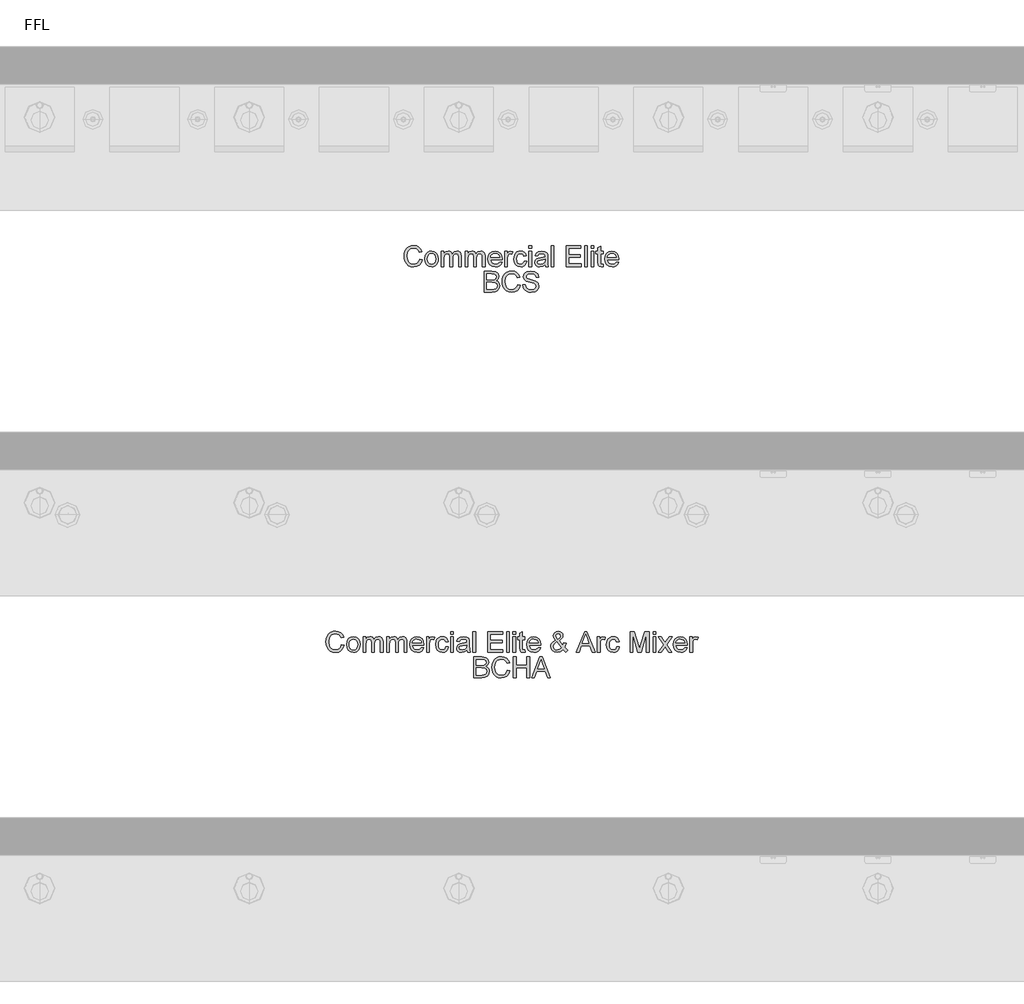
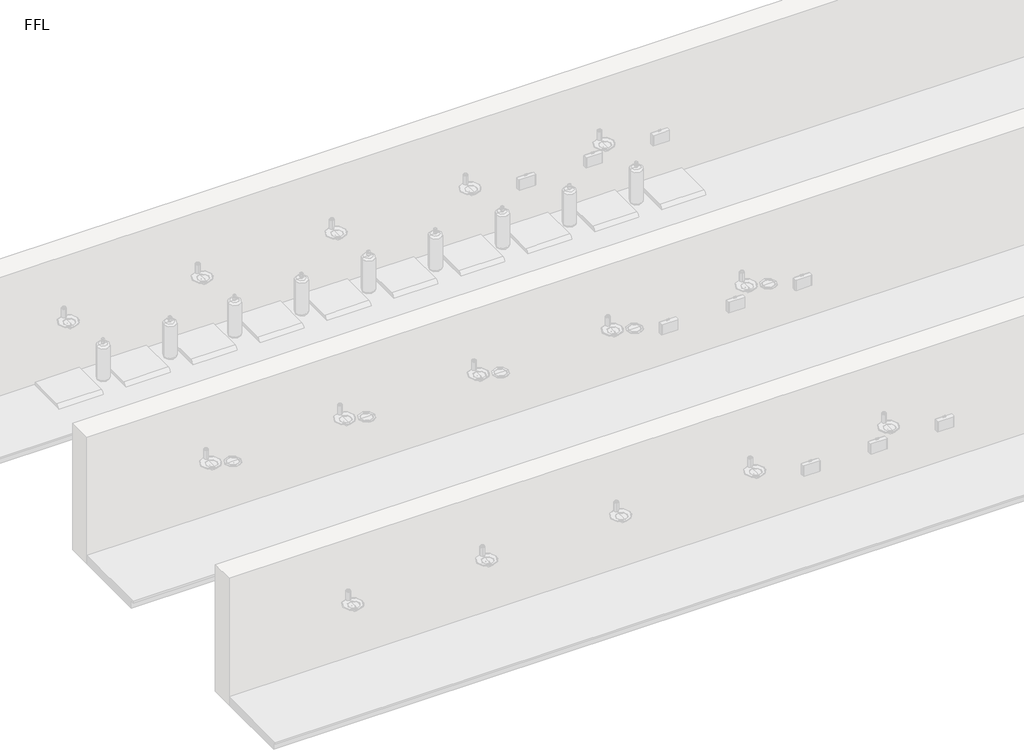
# One storey, part 9 of 13: 2 proxies.
"""IFC4 building model written with IfcOpenShell, lengths in millimetres."""

from ifc_helpers import new_model, si_unit, origin, origin_with_axes, place, context, project, spatial, polyline, outline, extrude, element, save

model = new_model("IFC4")

# Units and contexts
model_context = context("Model", 3, world=origin())
ifc_project = project(units=[si_unit("LENGTHUNIT", "METRE", prefix="MILLI")], contexts=[model_context])

# Site, building, storey
site = spatial("IfcSite", under=ifc_project)
building = spatial("IfcBuilding", under=site)
storey = spatial("IfcBuildingStorey", under=building, Name="FFL", Elevation=0.0)

# Proxies
placement = place(None, origin())
element("IfcBuildingElementProxy", 1, Name="150mm Arial", ObjectType="150mm Arial", at=placement, inside=storey, context=model_context, shape_type="SweptSolid", body=[
    extrude(outline(polyline([(-3000.1199083, 3836.3018309), (-2981.6583698, 3831.5422155), (-2990.1769996, 3810.0292948), (-3003.545389, 3794.3126482), (-3021.1054852, 3784.698766), (-3042.1992352, 3781.4941386), (-3063.6129972, 3783.9190184), (-3080.6187063, 3791.1936578), (-3093.6535621, 3803.065653), (-3103.154764, 3819.2826001), (-3108.9555453, 3838.3481049), (-3110.889139, 3858.7657732), (-3108.7031414, 3880.3012299), (-3102.1451486, 3898.8979847), (-3091.5577087, 3913.9655929), (-3077.2833698, 3924.9136097), (-3060.3542833, 3931.5797756), (-3041.8026006, 3933.8018309), (-3021.5607135, 3930.9262299), (-3004.8254371, 3922.299427), (-2992.1196078, 3908.4532732), (-2983.9660621, 3889.9196193), (-3002.4276006, 3885.5205809), (-3008.8278409, 3898.9836217), (-3017.5718313, 3908.2188982), (-3028.7677448, 3913.5599439), (-3042.5237544, 3915.3402924), (-3058.3801246, 3913.3661338), (-3071.4059659, 3907.4436578), (-3081.2902809, 3898.1948597), (-3087.7220717, 3886.2417347), (-3092.4276006, 3858.8018309), (-3086.8566871, 3826.9989463), (-3079.7352929, 3815.1224439), (-3069.5129371, 3806.6804367), (-3057.2578289, 3801.6368669), (-3044.0381775, 3799.955677), (-3028.6280212, 3802.2453405), (-3015.7869756, 3809.1143309), (-3006.0919635, 3820.4905328), (-3000.1199083, 3836.3018309)])), origin_with_axes(), (0.0, 0.0, 1.0), 5.0),
    extrude(outline(polyline([(-2963.1968313, 3838.0326001), (-2959.2034419, 3864.1834415), (-2947.2232736, 3882.5638501), (-2932.4215909, 3891.5692588), (-2914.6992352, 3894.5710617), (-2895.3047039, 3890.9157131), (-2879.8134179, 3879.9496674), (-2869.6586703, 3862.5383092), (-2866.2737544, 3839.5470232), (-2867.7701486, 3820.8961818), (-2872.2593313, 3806.6984655), (-2879.6105934, 3796.0659535), (-2889.6932256, 3788.1107251), (-2901.6688866, 3783.1482852), (-2914.6992352, 3781.4941386), (-2934.3281414, 3785.1359655), (-2949.8013986, 3796.0614463), (-2959.8479732, 3813.8378886), (-2963.1968313, 3838.0326001)]), holes=[polyline([(-2944.7352929, 3838.0686578), (-2942.5988746, 3821.3604246), (-2936.1896198, 3809.456879), (-2926.5441871, 3802.3309775), (-2914.6992352, 3799.955677), (-2902.9083698, 3802.3444992), (-2893.2809659, 3809.5109655), (-2886.8717111, 3821.5722636), (-2884.7352929, 3838.6455809), (-2886.8852328, 3854.8670352), (-2893.3350525, 3866.6083213), (-2902.975978, 3873.7342227), (-2914.6992352, 3876.1095232), (-2926.5441871, 3873.7432371), (-2936.1896198, 3866.644379), (-2942.5988746, 3854.7678766), (-2944.7352929, 3838.0686578)])]), origin_with_axes(), (0.0, 0.0, 1.0), 5.0),
    extrude(outline(polyline([(-2845.5045236, 3783.8018309), (-2845.5045236, 3892.2633693), (-2827.0429852, 3892.2633693), (-2827.0429852, 3874.4148117), (-2814.3506775, 3889.0362059), (-2796.2857736, 3894.5710617), (-2786.0183458, 3893.1603044), (-2777.7881775, 3888.9280328), (-2767.6199083, 3873.1167347), (-2753.2148602, 3889.2074799), (-2735.0237544, 3894.5710617), (-2721.1460501, 3892.3399919), (-2710.8831294, 3885.6467828), (-2704.5414828, 3874.3111458), (-2702.4276006, 3858.1527924), (-2702.4276006, 3783.8018309), (-2720.889139, 3783.8018309), (-2720.889139, 3850.2201001), (-2722.6018794, 3865.6347636), (-2728.8038025, 3873.2249078), (-2739.3506775, 3876.1095232), (-2749.3521799, 3874.2615665), (-2757.5057256, 3868.7176963), (-2762.927901, 3859.0993068), (-2764.7352929, 3845.0277924), (-2764.7352929, 3783.8018309), (-2783.1968313, 3783.8018309), (-2783.1968313, 3852.2753886), (-2787.4696679, 3870.160004), (-2793.1081895, 3874.6221434), (-2801.4780813, 3876.1095232), (-2815.1439467, 3872.143177), (-2824.2304852, 3860.5326001), (-2827.0429852, 3838.5013501), (-2827.0429852, 3783.8018309), (-2845.5045236, 3783.8018309)])), origin_with_axes(), (0.0, 0.0, 1.0), 5.0),
    extrude(outline(polyline([(-2674.7352929, 3783.8018309), (-2674.7352929, 3892.2633693), (-2656.2737544, 3892.2633693), (-2656.2737544, 3874.4148117), (-2643.5814467, 3889.0362059), (-2625.5165429, 3894.5710617), (-2615.249115, 3893.1603044), (-2607.0189467, 3888.9280328), (-2596.8506775, 3873.1167347), (-2582.4456294, 3889.2074799), (-2564.2545236, 3894.5710617), (-2550.3768193, 3892.3399919), (-2540.1138986, 3885.6467828), (-2533.772252, 3874.3111458), (-2531.6583698, 3858.1527924), (-2531.6583698, 3783.8018309), (-2550.1199083, 3783.8018309), (-2550.1199083, 3850.2201001), (-2551.8326486, 3865.6347636), (-2558.0345717, 3873.2249078), (-2568.5814467, 3876.1095232), (-2578.5829491, 3874.2615665), (-2586.7364948, 3868.7176963), (-2592.1586703, 3859.0993068), (-2593.9660621, 3845.0277924), (-2593.9660621, 3783.8018309), (-2612.4276006, 3783.8018309), (-2612.4276006, 3852.2753886), (-2616.7004371, 3870.160004), (-2622.3389587, 3874.6221434), (-2630.7088506, 3876.1095232), (-2644.3747159, 3872.143177), (-2653.4612544, 3860.5326001), (-2656.2737544, 3838.5013501), (-2656.2737544, 3783.8018309), (-2674.7352929, 3783.8018309)])), origin_with_axes(), (0.0, 0.0, 1.0), 5.0),
    extrude(outline(polyline([(-2428.0285621, 3816.1095232), (-2409.9276006, 3813.8018309), (-2416.4495357, 3800.1630088), (-2426.8566871, 3789.9676963), (-2440.9146799, 3783.612528), (-2458.389139, 3781.4941386), (-2480.0507977, 3785.1494871), (-2496.7184659, 3796.1155328), (-2507.3464708, 3813.6801362), (-2510.889139, 3837.1311578), (-2507.3104131, 3861.3709415), (-2496.5742352, 3879.4989463), (-2480.1319275, 3890.8030328), (-2459.4348121, 3894.5710617), (-2439.382228, 3890.8120472), (-2423.3590909, 3879.535004), (-2412.8527809, 3861.4430568), (-2409.3506775, 3837.2393309), (-2409.4588506, 3832.2633693), (-2492.4276006, 3832.2633693), (-2489.2319876, 3818.4442588), (-2481.8086102, 3808.285004), (-2471.0949684, 3802.0380088), (-2458.0285621, 3799.955677), (-2439.9276006, 3803.8138501), (-2428.0285621, 3816.1095232)]), holes=[polyline([(-2492.4276006, 3850.7249078), (-2427.8122159, 3850.7249078), (-2430.3092111, 3860.4785136), (-2435.2040429, 3867.455677), (-2445.967264, 3873.9460617), (-2459.5069275, 3876.1095232), (-2471.9513385, 3874.3832612), (-2482.2413025, 3869.2044751), (-2489.3942472, 3861.1320592), (-2492.4276006, 3850.7249078)])]), origin_with_axes(), (0.0, 0.0, 1.0), 5.0),
    extrude(outline(polyline([(-2390.889139, 3783.8018309), (-2390.889139, 3892.2633693), (-2374.7352929, 3892.2633693), (-2374.7352929, 3876.2176963), (-2363.2689467, 3891.0013501), (-2351.7304852, 3894.5710617), (-2333.1968313, 3888.8739463), (-2339.3626967, 3872.3234655), (-2352.3434659, 3876.1095232), (-2362.7821679, 3872.4676963), (-2369.4348121, 3862.3715424), (-2372.4276006, 3840.8090424), (-2372.4276006, 3783.8018309), (-2390.889139, 3783.8018309)])), origin_with_axes(), (0.0, 0.0, 1.0), 5.0),
    extrude(outline(polyline([(-2252.4276006, 3823.0326001), (-2233.9660621, 3820.7249078), (-2239.1132977, 3804.3051362), (-2248.7857736, 3791.8967828), (-2262.0730333, 3784.0947996), (-2278.0646198, 3781.4941386), (-2297.7025405, 3785.1224439), (-2313.0586102, 3796.0073597), (-2322.9699684, 3813.6711217), (-2326.2737544, 3837.6359655), (-2320.6307256, 3868.3030328), (-2313.5093313, 3879.8009294), (-2303.4312063, 3888.0085617), (-2291.3744155, 3892.9304367), (-2278.3170236, 3894.5710617), (-2262.7175645, 3892.3174559), (-2250.2461102, 3885.5566386), (-2241.2992953, 3874.6491867), (-2236.2737544, 3859.955677), (-2254.7352929, 3857.6479847), (-2263.2989948, 3871.4761097), (-2278.1727929, 3876.1095232), (-2290.1033818, 3873.8288742), (-2299.5730333, 3866.986927), (-2305.7524203, 3855.2140905), (-2307.8122159, 3838.1407732), (-2305.7974924, 3820.8375881), (-2299.7533217, 3809.0241867), (-2290.4549443, 3802.2228044), (-2278.6776006, 3799.955677), (-2269.1178049, 3801.3709415), (-2261.279764, 3805.6167347), (-2255.5781414, 3812.8012299), (-2252.4276006, 3823.0326001)])), origin_with_axes(), (0.0, 0.0, 1.0), 5.0),
    extrude(outline(polyline([(-2217.8122159, 3913.0326001), (-2217.8122159, 3931.4941386), (-2199.3506775, 3931.4941386), (-2199.3506775, 3913.0326001), (-2217.8122159, 3913.0326001)])), origin_with_axes(), (0.0, 0.0, 1.0), 5.0),
    extrude(outline(polyline([(-2217.8122159, 3783.8018309), (-2217.8122159, 3892.2633693), (-2199.3506775, 3892.2633693), (-2199.3506775, 3783.8018309), (-2217.8122159, 3783.8018309)])), origin_with_axes(), (0.0, 0.0, 1.0), 5.0),
    extrude(outline(polyline([(-2102.4276006, 3797.6479847), (-2120.3302448, 3785.1359655), (-2140.107889, 3781.4941386), (-2155.5360741, 3783.6846434), (-2166.9167833, 3790.2561578), (-2173.9345116, 3800.2351242), (-2176.2737544, 3812.6479847), (-2172.7401006, 3827.2513501), (-2163.4552448, 3837.8523117), (-2150.5285621, 3843.910004), (-2134.5550044, 3846.6864463), (-2102.5357736, 3853.0326001), (-2102.4276006, 3857.143177), (-2103.6986342, 3865.3823597), (-2107.5117352, 3870.7729847), (-2116.0393794, 3874.7753886), (-2127.920389, 3876.1095232), (-2146.5982736, 3872.5578405), (-2155.5045236, 3859.955677), (-2173.9660621, 3862.2633693), (-2165.9792833, 3880.2922155), (-2149.8975525, 3890.8571193), (-2125.5405813, 3894.5710617), (-2103.1667833, 3891.2898117), (-2090.5285621, 3883.050629), (-2084.8675044, 3870.5205809), (-2083.9660621, 3854.3667347), (-2083.9660621, 3831.3979847), (-2083.0285621, 3799.3246674), (-2079.3506775, 3783.8018309), (-2097.8122159, 3783.8018309), (-2102.4276006, 3797.6479847)]), holes=[polyline([(-2102.4276006, 3834.5710617), (-2132.2112544, 3828.910004), (-2148.0946679, 3825.9172155), (-2155.2881775, 3821.049427), (-2157.8122159, 3813.9460617), (-2152.3134179, 3803.9580809), (-2136.1776006, 3799.955677), (-2117.4997159, 3804.3727443), (-2105.4564467, 3815.0638501), (-2102.5357736, 3829.3426963), (-2102.4276006, 3834.5710617)])]), origin_with_axes(), (0.0, 0.0, 1.0), 5.0),
    extrude(outline(polyline([(-2058.5814467, 3783.8018309), (-2058.5814467, 3931.4941386), (-2040.1199083, 3931.4941386), (-2040.1199083, 3783.8018309), (-2058.5814467, 3783.8018309)])), origin_with_axes(), (0.0, 0.0, 1.0), 5.0),
    extrude(outline(polyline([(-1952.4276006, 3783.8018309), (-1952.4276006, 3931.4941386), (-1846.2737544, 3931.4941386), (-1846.2737544, 3913.0326001), (-1933.9660621, 3913.0326001), (-1933.9660621, 3869.1864463), (-1850.889139, 3869.1864463), (-1850.889139, 3850.7249078), (-1933.9660621, 3850.7249078), (-1933.9660621, 3802.2633693), (-1843.9660621, 3802.2633693), (-1843.9660621, 3783.8018309), (-1952.4276006, 3783.8018309)])), origin_with_axes(), (0.0, 0.0, 1.0), 5.0),
    extrude(outline(polyline([(-1818.5814467, 3783.8018309), (-1818.5814467, 3931.4941386), (-1800.1199083, 3931.4941386), (-1800.1199083, 3783.8018309), (-1818.5814467, 3783.8018309)])), origin_with_axes(), (0.0, 0.0, 1.0), 5.0),
    extrude(outline(polyline([(-1772.4276006, 3783.8018309), (-1772.4276006, 3892.2633693), (-1753.9660621, 3892.2633693), (-1753.9660621, 3783.8018309), (-1772.4276006, 3783.8018309)])), origin_with_axes(), (0.0, 0.0, 1.0), 5.0),
    extrude(outline(polyline([(-1772.4276006, 3913.0326001), (-1772.4276006, 3931.4941386), (-1753.9660621, 3931.4941386), (-1753.9660621, 3913.0326001), (-1772.4276006, 3913.0326001)])), origin_with_axes(), (0.0, 0.0, 1.0), 5.0),
    extrude(outline(polyline([(-1687.0429852, 3799.1984655), (-1684.7352929, 3783.2609655), (-1698.545389, 3781.4941386), (-1714.014139, 3784.5590424), (-1721.7304852, 3792.5999078), (-1723.9660621, 3813.549427), (-1723.9660621, 3873.8018309), (-1737.8122159, 3873.8018309), (-1737.8122159, 3892.2633693), (-1723.9660621, 3892.2633693), (-1723.9660621, 3918.6215424), (-1705.5045236, 3929.4749078), (-1705.5045236, 3892.2633693), (-1687.0429852, 3892.2633693), (-1687.0429852, 3873.8018309), (-1705.5045236, 3873.8018309), (-1705.5045236, 3814.0902924), (-1704.5309659, 3804.5710617), (-1701.3759179, 3801.1996674), (-1695.0838506, 3799.955677), (-1687.0429852, 3799.1984655)])), origin_with_axes(), (0.0, 0.0, 1.0), 5.0),
    extrude(outline(polyline([(-1592.6439467, 3816.1095232), (-1574.5429852, 3813.8018309), (-1581.0649203, 3800.1630088), (-1591.4720717, 3789.9676963), (-1605.5300645, 3783.612528), (-1623.0045236, 3781.4941386), (-1644.6661823, 3785.1494871), (-1661.3338506, 3796.1155328), (-1671.9618554, 3813.6801362), (-1675.5045236, 3837.1311578), (-1671.9257977, 3861.3709415), (-1661.1896198, 3879.4989463), (-1644.7473121, 3890.8030328), (-1624.0501967, 3894.5710617), (-1603.9976126, 3890.8120472), (-1587.9744756, 3879.535004), (-1577.4681655, 3861.4430568), (-1573.9660621, 3837.2393309), (-1574.0742352, 3832.2633693), (-1657.0429852, 3832.2633693), (-1653.8473722, 3818.4442588), (-1646.4239948, 3808.285004), (-1635.710353, 3802.0380088), (-1622.6439467, 3799.955677), (-1604.5429852, 3803.8138501), (-1592.6439467, 3816.1095232)]), holes=[polyline([(-1657.0429852, 3850.7249078), (-1592.4276006, 3850.7249078), (-1594.9245958, 3860.4785136), (-1599.8194275, 3867.455677), (-1610.5826486, 3873.9460617), (-1624.1223121, 3876.1095232), (-1636.5667232, 3874.3832612), (-1646.8566871, 3869.2044751), (-1654.0096318, 3861.1320592), (-1657.0429852, 3850.7249078)])]), origin_with_axes(), (0.0, 0.0, 1.0), 5.0),
    extrude(outline(polyline([(-2538.5814467, 3601.4941386), (-2538.5814467, 3749.1864463), (-2482.2232736, 3749.1864463), (-2454.6211102, 3744.8414943), (-2445.3452688, 3739.3291746), (-2438.3230333, 3731.4821193), (-2432.4276006, 3712.5878886), (-2437.3855333, 3695.3342828), (-2452.3675044, 3682.2633693), (-2441.9062664, 3676.800629), (-2434.1763986, 3668.4893309), (-2429.4032616, 3657.8793549), (-2427.8122159, 3645.5205809), (-2432.1571679, 3625.6708213), (-2442.920389, 3611.5362059), (-2458.9840909, 3604.0362059), (-2482.6559659, 3601.4941386), (-2538.5814467, 3601.4941386)]), holes=[polyline([(-2520.1199083, 3619.955677), (-2482.2593313, 3619.955677), (-2468.5574083, 3620.6768309), (-2456.9648602, 3624.6972636), (-2449.2845717, 3632.9003886), (-2446.2737544, 3645.3402924), (-2449.8074083, 3659.691254), (-2461.2557256, 3668.2549559), (-2484.0622159, 3670.7249078), (-2520.1199083, 3670.7249078), (-2520.1199083, 3619.955677)]), polyline([(-2520.1199083, 3689.1864463), (-2486.4059659, 3689.1864463), (-2466.7184659, 3690.7729847), (-2454.873514, 3697.6059174), (-2450.889139, 3709.6311578), (-2454.6030813, 3721.674427), (-2465.2401006, 3728.7958213), (-2488.9660621, 3730.7249078), (-2520.1199083, 3730.7249078), (-2520.1199083, 3689.1864463)])]), origin_with_axes(), (0.0, 0.0, 1.0), 5.0),
    extrude(outline(polyline([(-2298.5814467, 3653.9941386), (-2280.1199083, 3649.2345232), (-2288.6385381, 3627.7216025), (-2302.0069275, 3612.0049559), (-2319.5670236, 3602.3910737), (-2340.6607736, 3599.1864463), (-2362.0745357, 3601.6113261), (-2379.0802448, 3608.8859655), (-2392.1151006, 3620.7579607), (-2401.6163025, 3636.9749078), (-2407.4170837, 3656.0404126), (-2409.3506775, 3676.4580809), (-2407.1646799, 3697.9935376), (-2400.6066871, 3716.5902924), (-2390.0192472, 3731.6579006), (-2375.7449083, 3742.6059174), (-2358.8158217, 3749.2720833), (-2340.264139, 3751.4941386), (-2320.022252, 3748.6185376), (-2303.2869756, 3739.9917347), (-2290.5811462, 3726.1455809), (-2282.4276006, 3707.611927), (-2300.889139, 3703.2128886), (-2307.2893794, 3716.6759294), (-2316.0333698, 3725.9112059), (-2327.2292833, 3731.2522516), (-2340.9852929, 3733.0326001), (-2356.8416631, 3731.0584415), (-2369.8675044, 3725.1359655), (-2379.7518193, 3715.8871674), (-2386.1836102, 3703.9340424), (-2390.889139, 3676.4941386), (-2385.3182256, 3644.691254), (-2378.1968313, 3632.8147516), (-2367.9744756, 3624.3727443), (-2355.7193674, 3619.3291746), (-2342.4997159, 3617.6479847), (-2327.0895597, 3619.9376482), (-2314.248514, 3626.8066386), (-2304.553502, 3638.1828405), (-2298.5814467, 3653.9941386)])), origin_with_axes(), (0.0, 0.0, 1.0), 5.0),
    extrude(outline(polyline([(-2261.6583698, 3652.2633693), (-2243.1968313, 3652.2633693), (-2237.2473121, 3633.783802), (-2222.7160621, 3622.1011097), (-2200.576639, 3617.6479847), (-2181.2857736, 3621.019379), (-2168.8278409, 3630.2862059), (-2164.7352929, 3642.6720232), (-2167.8001967, 3654.1924559), (-2180.3482736, 3662.5758693), (-2207.2292833, 3669.6251482), (-2236.1655813, 3678.7297155), (-2251.8687063, 3692.4676963), (-2257.0429852, 3710.8210617), (-2255.4429251, 3721.6338621), (-2250.6427448, 3731.7164943), (-2242.7686462, 3740.2621674), (-2231.9468313, 3746.4640905), (-2204.5790429, 3751.4941386), (-2175.3723121, 3746.2297155), (-2164.1763986, 3739.7303165), (-2155.9011583, 3730.7609655), (-2150.6637784, 3719.8805568), (-2148.5814467, 3707.6479847), (-2167.0429852, 3707.6479847), (-2170.4324083, 3718.6636097), (-2177.4997159, 3726.6143309), (-2188.5423842, 3731.4280328), (-2203.857889, 3733.0326001), (-2219.5339708, 3731.4460617), (-2230.2881775, 3726.6864463), (-2236.5081294, 3719.6822395), (-2238.5814467, 3711.361927), (-2237.1120958, 3704.2675761), (-2232.7040429, 3698.5614463), (-2202.5598121, 3688.2489463), (-2169.8915429, 3678.9821193), (-2159.3672039, 3672.284403), (-2152.0249563, 3664.018177), (-2146.2737544, 3643.1407732), (-2147.927901, 3631.7600641), (-2152.8903409, 3621.0554367), (-2160.9582496, 3611.8426963), (-2171.9288025, 3604.9376482), (-2199.8554852, 3599.1864463), (-2217.9429251, 3600.736927), (-2232.8302448, 3605.3883693), (-2244.6887184, 3613.158802), (-2253.6896198, 3624.066254), (-2259.467865, 3637.3535136), (-2261.6583698, 3652.2633693)])), origin_with_axes(), (0.0, 0.0, 1.0), 5.0),
])
element("IfcBuildingElementProxy", 2, Name="150mm Arial", ObjectType="150mm Arial", at=placement, inside=storey, context=model_context, shape_type="SweptSolid", body=[
    extrude(outline(polyline([(-3559.7352929, 1076.3018309), (-3541.2737544, 1071.5422155), (-3549.7923842, 1050.0292948), (-3563.1607736, 1034.3126482), (-3580.7208698, 1024.698766), (-3601.8146198, 1021.4941386), (-3623.2283818, 1023.9190184), (-3640.2340909, 1031.1936578), (-3653.2689467, 1043.065653), (-3662.7701486, 1059.2826001), (-3668.5709299, 1078.3481049), (-3670.5045236, 1098.7657732), (-3668.318526, 1120.3012299), (-3661.7605333, 1138.8979847), (-3651.1730934, 1153.9655929), (-3636.8987544, 1164.9136097), (-3619.9696679, 1171.5797756), (-3601.4179852, 1173.8018309), (-3581.1760982, 1170.9262299), (-3564.4408217, 1162.299427), (-3551.7349924, 1148.4532732), (-3543.5814467, 1129.9196193), (-3562.0429852, 1125.5205809), (-3568.4432256, 1138.9836217), (-3577.1872159, 1148.2188982), (-3588.3831294, 1153.5599439), (-3602.139139, 1155.3402924), (-3617.9955092, 1153.3661338), (-3631.0213506, 1147.4436578), (-3640.9056655, 1138.1948597), (-3647.3374563, 1126.2417347), (-3652.0429852, 1098.8018309), (-3646.4720717, 1066.9989463), (-3639.3506775, 1055.1224439), (-3629.1283217, 1046.6804367), (-3616.8732135, 1041.6368669), (-3603.6535621, 1039.955677), (-3588.2434059, 1042.2453405), (-3575.4023602, 1049.1143309), (-3565.7073482, 1060.4905328), (-3559.7352929, 1076.3018309)])), origin_with_axes(), (0.0, 0.0, 1.0), 5.0),
    extrude(outline(polyline([(-3522.8122159, 1078.0326001), (-3518.8188265, 1104.1834415), (-3506.8386583, 1122.5638501), (-3492.0369756, 1131.5692588), (-3474.3146198, 1134.5710617), (-3454.9200885, 1130.9157131), (-3439.4288025, 1119.9496674), (-3429.2740549, 1102.5383092), (-3425.889139, 1079.5470232), (-3427.3855333, 1060.8961818), (-3431.8747159, 1046.6984655), (-3439.225978, 1036.0659535), (-3449.3086102, 1028.1107251), (-3461.2842712, 1023.1482852), (-3474.3146198, 1021.4941386), (-3493.943526, 1025.1359655), (-3509.4167833, 1036.0614463), (-3519.4633578, 1053.8378886), (-3522.8122159, 1078.0326001)]), holes=[polyline([(-3504.3506775, 1078.0686578), (-3502.2142592, 1061.3604246), (-3495.8050044, 1049.456879), (-3486.1595717, 1042.3309775), (-3474.3146198, 1039.955677), (-3462.5237544, 1042.3444992), (-3452.8963506, 1049.5109655), (-3446.4870958, 1061.5722636), (-3444.3506775, 1078.6455809), (-3446.5006174, 1094.8670352), (-3452.9504371, 1106.6083213), (-3462.5913626, 1113.7342227), (-3474.3146198, 1116.1095232), (-3486.1595717, 1113.7432371), (-3495.8050044, 1106.644379), (-3502.2142592, 1094.7678766), (-3504.3506775, 1078.0686578)])]), origin_with_axes(), (0.0, 0.0, 1.0), 5.0),
    extrude(outline(polyline([(-3405.1199083, 1023.8018309), (-3405.1199083, 1132.2633693), (-3386.6583698, 1132.2633693), (-3386.6583698, 1114.4148117), (-3373.9660621, 1129.0362059), (-3355.9011583, 1134.5710617), (-3345.6337304, 1133.1603044), (-3337.4035621, 1128.9280328), (-3327.2352929, 1113.1167347), (-3312.8302448, 1129.2074799), (-3294.639139, 1134.5710617), (-3280.7614347, 1132.3399919), (-3270.498514, 1125.6467828), (-3264.1568674, 1114.3111458), (-3262.0429852, 1098.1527924), (-3262.0429852, 1023.8018309), (-3280.5045236, 1023.8018309), (-3280.5045236, 1090.2201001), (-3282.217264, 1105.6347636), (-3288.4191871, 1113.2249078), (-3298.9660621, 1116.1095232), (-3308.9675645, 1114.2615665), (-3317.1211102, 1108.7176963), (-3322.5432857, 1099.0993068), (-3324.3506775, 1085.0277924), (-3324.3506775, 1023.8018309), (-3342.8122159, 1023.8018309), (-3342.8122159, 1092.2753886), (-3347.0850525, 1110.160004), (-3352.7235741, 1114.6221434), (-3361.0934659, 1116.1095232), (-3374.7593313, 1112.143177), (-3383.8458698, 1100.5326001), (-3386.6583698, 1078.5013501), (-3386.6583698, 1023.8018309), (-3405.1199083, 1023.8018309)])), origin_with_axes(), (0.0, 0.0, 1.0), 5.0),
    extrude(outline(polyline([(-3234.3506775, 1023.8018309), (-3234.3506775, 1132.2633693), (-3215.889139, 1132.2633693), (-3215.889139, 1114.4148117), (-3203.1968313, 1129.0362059), (-3185.1319275, 1134.5710617), (-3174.8644996, 1133.1603044), (-3166.6343313, 1128.9280328), (-3156.4660621, 1113.1167347), (-3142.061014, 1129.2074799), (-3123.8699083, 1134.5710617), (-3109.9922039, 1132.3399919), (-3099.7292833, 1125.6467828), (-3093.3876366, 1114.3111458), (-3091.2737544, 1098.1527924), (-3091.2737544, 1023.8018309), (-3109.7352929, 1023.8018309), (-3109.7352929, 1090.2201001), (-3111.4480333, 1105.6347636), (-3117.6499563, 1113.2249078), (-3128.1968313, 1116.1095232), (-3138.1983337, 1114.2615665), (-3146.3518794, 1108.7176963), (-3151.7740549, 1099.0993068), (-3153.5814467, 1085.0277924), (-3153.5814467, 1023.8018309), (-3172.0429852, 1023.8018309), (-3172.0429852, 1092.2753886), (-3176.3158217, 1110.160004), (-3181.9543434, 1114.6221434), (-3190.3242352, 1116.1095232), (-3203.9901006, 1112.143177), (-3213.076639, 1100.5326001), (-3215.889139, 1078.5013501), (-3215.889139, 1023.8018309), (-3234.3506775, 1023.8018309)])), origin_with_axes(), (0.0, 0.0, 1.0), 5.0),
    extrude(outline(polyline([(-2987.6439467, 1056.1095232), (-2969.5429852, 1053.8018309), (-2976.0649203, 1040.1630088), (-2986.4720717, 1029.9676963), (-3000.5300645, 1023.612528), (-3018.0045236, 1021.4941386), (-3039.6661823, 1025.1494871), (-3056.3338506, 1036.1155328), (-3066.9618554, 1053.6801362), (-3070.5045236, 1077.1311578), (-3066.9257977, 1101.3709415), (-3056.1896198, 1119.4989463), (-3039.7473121, 1130.8030328), (-3019.0501967, 1134.5710617), (-2998.9976126, 1130.8120472), (-2982.9744756, 1119.535004), (-2972.4681655, 1101.4430568), (-2968.9660621, 1077.2393309), (-2969.0742352, 1072.2633693), (-3052.0429852, 1072.2633693), (-3048.8473722, 1058.4442588), (-3041.4239948, 1048.285004), (-3030.710353, 1042.0380088), (-3017.6439467, 1039.955677), (-2999.5429852, 1043.8138501), (-2987.6439467, 1056.1095232)]), holes=[polyline([(-3052.0429852, 1090.7249078), (-2987.4276006, 1090.7249078), (-2989.9245958, 1100.4785136), (-2994.8194275, 1107.455677), (-3005.5826486, 1113.9460617), (-3019.1223121, 1116.1095232), (-3031.5667232, 1114.3832612), (-3041.8566871, 1109.2044751), (-3049.0096318, 1101.1320592), (-3052.0429852, 1090.7249078)])]), origin_with_axes(), (0.0, 0.0, 1.0), 5.0),
    extrude(outline(polyline([(-2950.5045236, 1023.8018309), (-2950.5045236, 1132.2633693), (-2934.3506775, 1132.2633693), (-2934.3506775, 1116.2176963), (-2922.8843313, 1131.0013501), (-2911.3458698, 1134.5710617), (-2892.8122159, 1128.8739463), (-2898.9780813, 1112.3234655), (-2911.9588506, 1116.1095232), (-2922.3975525, 1112.4676963), (-2929.0501967, 1102.3715424), (-2932.0429852, 1080.8090424), (-2932.0429852, 1023.8018309), (-2950.5045236, 1023.8018309)])), origin_with_axes(), (0.0, 0.0, 1.0), 5.0),
    extrude(outline(polyline([(-2812.0429852, 1063.0326001), (-2793.5814467, 1060.7249078), (-2798.7286823, 1044.3051362), (-2808.4011583, 1031.8967828), (-2821.6884179, 1024.0947996), (-2837.6800044, 1021.4941386), (-2857.3179251, 1025.1224439), (-2872.6739948, 1036.0073597), (-2882.585353, 1053.6711217), (-2885.889139, 1077.6359655), (-2880.2461102, 1108.3030328), (-2873.1247159, 1119.8009294), (-2863.0465909, 1128.0085617), (-2850.9898001, 1132.9304367), (-2837.9324083, 1134.5710617), (-2822.3329491, 1132.3174559), (-2809.8614948, 1125.5566386), (-2800.9146799, 1114.6491867), (-2795.889139, 1099.955677), (-2814.3506775, 1097.6479847), (-2822.9143794, 1111.4761097), (-2837.7881775, 1116.1095232), (-2849.7187664, 1113.8288742), (-2859.1884179, 1106.986927), (-2865.3678049, 1095.2140905), (-2867.4276006, 1078.1407732), (-2865.412877, 1060.8375881), (-2859.3687063, 1049.0241867), (-2850.0703289, 1042.2228044), (-2838.2929852, 1039.955677), (-2828.7331895, 1041.3709415), (-2820.8951486, 1045.6167347), (-2815.193526, 1052.8012299), (-2812.0429852, 1063.0326001)])), origin_with_axes(), (0.0, 0.0, 1.0), 5.0),
    extrude(outline(polyline([(-2777.4276006, 1153.0326001), (-2777.4276006, 1171.4941386), (-2758.9660621, 1171.4941386), (-2758.9660621, 1153.0326001), (-2777.4276006, 1153.0326001)])), origin_with_axes(), (0.0, 0.0, 1.0), 5.0),
    extrude(outline(polyline([(-2777.4276006, 1023.8018309), (-2777.4276006, 1132.2633693), (-2758.9660621, 1132.2633693), (-2758.9660621, 1023.8018309), (-2777.4276006, 1023.8018309)])), origin_with_axes(), (0.0, 0.0, 1.0), 5.0),
    extrude(outline(polyline([(-2662.0429852, 1037.6479847), (-2679.9456294, 1025.1359655), (-2699.7232736, 1021.4941386), (-2715.1514587, 1023.6846434), (-2726.5321679, 1030.2561578), (-2733.5498962, 1040.2351242), (-2735.889139, 1052.6479847), (-2732.3554852, 1067.2513501), (-2723.0706294, 1077.8523117), (-2710.1439467, 1083.910004), (-2694.170389, 1086.6864463), (-2662.1511583, 1093.0326001), (-2662.0429852, 1097.143177), (-2663.3140188, 1105.3823597), (-2667.1271198, 1110.7729847), (-2675.654764, 1114.7753886), (-2687.5357736, 1116.1095232), (-2706.2136583, 1112.5578405), (-2715.1199083, 1099.955677), (-2733.5814467, 1102.2633693), (-2725.5946679, 1120.2922155), (-2709.5129371, 1130.8571193), (-2685.1559659, 1134.5710617), (-2662.7821679, 1131.2898117), (-2650.1439467, 1123.050629), (-2644.482889, 1110.5205809), (-2643.5814467, 1094.3667347), (-2643.5814467, 1071.3979847), (-2642.6439467, 1039.3246674), (-2638.9660621, 1023.8018309), (-2657.4276006, 1023.8018309), (-2662.0429852, 1037.6479847)]), holes=[polyline([(-2662.0429852, 1074.5710617), (-2691.826639, 1068.910004), (-2707.7100525, 1065.9172155), (-2714.9035621, 1061.049427), (-2717.4276006, 1053.9460617), (-2711.9288025, 1043.9580809), (-2695.7929852, 1039.955677), (-2677.1151006, 1044.3727443), (-2665.0718313, 1055.0638501), (-2662.1511583, 1069.3426963), (-2662.0429852, 1074.5710617)])]), origin_with_axes(), (0.0, 0.0, 1.0), 5.0),
    extrude(outline(polyline([(-2618.1968313, 1023.8018309), (-2618.1968313, 1171.4941386), (-2599.7352929, 1171.4941386), (-2599.7352929, 1023.8018309), (-2618.1968313, 1023.8018309)])), origin_with_axes(), (0.0, 0.0, 1.0), 5.0),
    extrude(outline(polyline([(-2512.0429852, 1023.8018309), (-2512.0429852, 1171.4941386), (-2405.889139, 1171.4941386), (-2405.889139, 1153.0326001), (-2493.5814467, 1153.0326001), (-2493.5814467, 1109.1864463), (-2410.5045236, 1109.1864463), (-2410.5045236, 1090.7249078), (-2493.5814467, 1090.7249078), (-2493.5814467, 1042.2633693), (-2403.5814467, 1042.2633693), (-2403.5814467, 1023.8018309), (-2512.0429852, 1023.8018309)])), origin_with_axes(), (0.0, 0.0, 1.0), 5.0),
    extrude(outline(polyline([(-2378.1968313, 1023.8018309), (-2378.1968313, 1171.4941386), (-2359.7352929, 1171.4941386), (-2359.7352929, 1023.8018309), (-2378.1968313, 1023.8018309)])), origin_with_axes(), (0.0, 0.0, 1.0), 5.0),
    extrude(outline(polyline([(-2332.0429852, 1023.8018309), (-2332.0429852, 1132.2633693), (-2313.5814467, 1132.2633693), (-2313.5814467, 1023.8018309), (-2332.0429852, 1023.8018309)])), origin_with_axes(), (0.0, 0.0, 1.0), 5.0),
    extrude(outline(polyline([(-2332.0429852, 1153.0326001), (-2332.0429852, 1171.4941386), (-2313.5814467, 1171.4941386), (-2313.5814467, 1153.0326001), (-2332.0429852, 1153.0326001)])), origin_with_axes(), (0.0, 0.0, 1.0), 5.0),
    extrude(outline(polyline([(-2246.6583698, 1039.1984655), (-2244.3506775, 1023.2609655), (-2258.1607736, 1021.4941386), (-2273.6295236, 1024.5590424), (-2281.3458698, 1032.5999078), (-2283.5814467, 1053.549427), (-2283.5814467, 1113.8018309), (-2297.4276006, 1113.8018309), (-2297.4276006, 1132.2633693), (-2283.5814467, 1132.2633693), (-2283.5814467, 1158.6215424), (-2265.1199083, 1169.4749078), (-2265.1199083, 1132.2633693), (-2246.6583698, 1132.2633693), (-2246.6583698, 1113.8018309), (-2265.1199083, 1113.8018309), (-2265.1199083, 1054.0902924), (-2264.1463506, 1044.5710617), (-2260.9913025, 1041.1996674), (-2254.6992352, 1039.955677), (-2246.6583698, 1039.1984655)])), origin_with_axes(), (0.0, 0.0, 1.0), 5.0),
    extrude(outline(polyline([(-2152.2593313, 1056.1095232), (-2134.1583698, 1053.8018309), (-2140.6803049, 1040.1630088), (-2151.0874563, 1029.9676963), (-2165.1454491, 1023.612528), (-2182.6199083, 1021.4941386), (-2204.2815669, 1025.1494871), (-2220.9492352, 1036.1155328), (-2231.57724, 1053.6801362), (-2235.1199083, 1077.1311578), (-2231.5411823, 1101.3709415), (-2220.8050044, 1119.4989463), (-2204.3626967, 1130.8030328), (-2183.6655813, 1134.5710617), (-2163.6129972, 1130.8120472), (-2147.5898602, 1119.535004), (-2137.0835501, 1101.4430568), (-2133.5814467, 1077.2393309), (-2133.6896198, 1072.2633693), (-2216.6583698, 1072.2633693), (-2213.4627568, 1058.4442588), (-2206.0393794, 1048.285004), (-2195.3257376, 1042.0380088), (-2182.2593313, 1039.955677), (-2164.1583698, 1043.8138501), (-2152.2593313, 1056.1095232)]), holes=[polyline([(-2216.6583698, 1090.7249078), (-2152.0429852, 1090.7249078), (-2154.5399804, 1100.4785136), (-2159.4348121, 1107.455677), (-2170.1980333, 1113.9460617), (-2183.7376967, 1116.1095232), (-2196.1821078, 1114.3832612), (-2206.4720717, 1109.2044751), (-2213.6250164, 1101.1320592), (-2216.6583698, 1090.7249078)])]), origin_with_axes(), (0.0, 0.0, 1.0), 5.0),
    extrude(outline(polyline([(-1972.7280813, 1042.0470232), (-1992.3074083, 1026.6323597), (-2015.2040429, 1021.4941386), (-2035.576639, 1025.2982251), (-2051.2617352, 1036.7104847), (-2059.3476727, 1049.8444992), (-2062.0429852, 1064.4388501), (-2059.8750164, 1077.3745472), (-2053.3711102, 1088.9941386), (-2042.5583097, 1099.2886097), (-2027.4636583, 1108.2489463), (-2040.3542833, 1126.9268309), (-2043.5814467, 1140.7729847), (-2041.0393794, 1153.2399318), (-2033.4131775, 1163.9580809), (-2021.9378169, 1171.3408934), (-2007.8482736, 1173.8018309), (-1994.4438265, 1171.4490665), (-1983.7256775, 1164.3907732), (-1976.6944275, 1154.0332011), (-1974.3506775, 1141.7826001), (-1976.0859539, 1131.4971434), (-1981.2917833, 1121.986927), (-2002.1151006, 1105.2922155), (-1975.3963506, 1072.0109655), (-1967.4276006, 1092.455677), (-1948.9660621, 1088.4532732), (-1962.0189467, 1058.0566386), (-1939.7352929, 1035.7008693), (-1953.5814467, 1021.4941386), (-1972.7280813, 1042.0470232)]), holes=[polyline([(-2011.4540429, 1116.9388501), (-1996.2737544, 1128.3871674), (-1992.8122159, 1139.2585617), (-1997.373514, 1150.8511097), (-2008.7857736, 1155.3402924), (-2020.4504371, 1150.8871674), (-2025.1199083, 1140.0157732), (-2023.5333698, 1133.2549559), (-2018.7376967, 1125.736927), (-2011.4540429, 1116.9388501)]), polyline([(-1985.0958698, 1055.3523117), (-2018.0526006, 1096.4941386), (-2038.3350525, 1081.0253886), (-2043.5814467, 1066.8907732), (-2041.7875765, 1058.1828405), (-2036.4059659, 1049.1503886), (-2027.7340909, 1042.2543549), (-2016.0694275, 1039.955677), (-1999.1042833, 1044.2465424), (-1985.0958698, 1055.3523117)])]), origin_with_axes(), (0.0, 0.0, 1.0), 5.0),
    extrude(outline(polyline([(-1878.4732736, 1023.8018309), (-1819.5189467, 1171.4941386), (-1803.7977929, 1171.4941386), (-1744.8434659, 1023.8018309), (-1764.3506775, 1023.8018309), (-1781.2617352, 1069.955677), (-1842.0910621, 1069.955677), (-1858.9660621, 1023.8018309), (-1878.4732736, 1023.8018309)]), holes=[polyline([(-1835.3122159, 1088.4172155), (-1788.0045236, 1088.4172155), (-1801.3098121, 1124.7273117), (-1811.6583698, 1153.0326001), (-1820.8530813, 1127.9003886), (-1835.3122159, 1088.4172155)])]), origin_with_axes(), (0.0, 0.0, 1.0), 5.0),
    extrude(outline(polyline([(-1727.4276006, 1023.8018309), (-1727.4276006, 1132.2633693), (-1711.2737544, 1132.2633693), (-1711.2737544, 1116.2176963), (-1699.8074083, 1131.0013501), (-1688.2689467, 1134.5710617), (-1669.7352929, 1128.8739463), (-1675.9011583, 1112.3234655), (-1688.8819275, 1116.1095232), (-1699.3206294, 1112.4676963), (-1705.9732736, 1102.3715424), (-1708.9660621, 1080.8090424), (-1708.9660621, 1023.8018309), (-1727.4276006, 1023.8018309)])), origin_with_axes(), (0.0, 0.0, 1.0), 5.0),
    extrude(outline(polyline([(-1588.9660621, 1063.0326001), (-1570.5045236, 1060.7249078), (-1575.6517592, 1044.3051362), (-1585.3242352, 1031.8967828), (-1598.6114948, 1024.0947996), (-1614.6030813, 1021.4941386), (-1634.241002, 1025.1224439), (-1649.5970717, 1036.0073597), (-1659.5084299, 1053.6711217), (-1662.8122159, 1077.6359655), (-1657.1691871, 1108.3030328), (-1650.0477929, 1119.8009294), (-1639.9696679, 1128.0085617), (-1627.912877, 1132.9304367), (-1614.8554852, 1134.5710617), (-1599.256026, 1132.3174559), (-1586.7845717, 1125.5566386), (-1577.8377568, 1114.6491867), (-1572.8122159, 1099.955677), (-1591.2737544, 1097.6479847), (-1599.8374563, 1111.4761097), (-1614.7112544, 1116.1095232), (-1626.6418434, 1113.8288742), (-1636.1114948, 1106.986927), (-1642.2908818, 1095.2140905), (-1644.3506775, 1078.1407732), (-1642.3359539, 1060.8375881), (-1636.2917833, 1049.0241867), (-1626.9934059, 1042.2228044), (-1615.2160621, 1039.955677), (-1605.6562664, 1041.3709415), (-1597.8182256, 1045.6167347), (-1592.116603, 1052.8012299), (-1588.9660621, 1063.0326001)])), origin_with_axes(), (0.0, 0.0, 1.0), 5.0),
    extrude(outline(polyline([(-1494.3506775, 1023.8018309), (-1494.3506775, 1171.4941386), (-1462.5838506, 1171.4941386), (-1432.3675044, 1067.3955809), (-1426.2737544, 1045.6527924), (-1419.6751967, 1069.1984655), (-1389.9636583, 1171.4941386), (-1358.1968313, 1171.4941386), (-1358.1968313, 1023.8018309), (-1376.6583698, 1023.8018309), (-1376.6583698, 1153.0326001), (-1413.7617352, 1023.8018309), (-1438.7857736, 1023.8018309), (-1475.889139, 1153.0326001), (-1475.889139, 1023.8018309), (-1494.3506775, 1023.8018309)])), origin_with_axes(), (0.0, 0.0, 1.0), 5.0),
    extrude(outline(polyline([(-1328.1968313, 1153.0326001), (-1328.1968313, 1171.4941386), (-1309.7352929, 1171.4941386), (-1309.7352929, 1153.0326001), (-1328.1968313, 1153.0326001)])), origin_with_axes(), (0.0, 0.0, 1.0), 5.0),
    extrude(outline(polyline([(-1328.1968313, 1023.8018309), (-1328.1968313, 1132.2633693), (-1309.7352929, 1132.2633693), (-1309.7352929, 1023.8018309), (-1328.1968313, 1023.8018309)])), origin_with_axes(), (0.0, 0.0, 1.0), 5.0),
    extrude(outline(polyline([(-1293.5814467, 1023.8018309), (-1254.1343313, 1078.3210617), (-1291.2737544, 1132.2633693), (-1269.0622159, 1132.2633693), (-1251.1415429, 1106.3018309), (-1242.7761583, 1094.0422155), (-1235.5285621, 1104.066254), (-1215.1199083, 1132.2633693), (-1192.9083698, 1132.2633693), (-1231.9227929, 1078.3210617), (-1194.3506775, 1023.8018309), (-1216.5622159, 1023.8018309), (-1239.170389, 1056.5782732), (-1243.3170236, 1062.5638501), (-1271.3699083, 1023.8018309), (-1293.5814467, 1023.8018309)])), origin_with_axes(), (0.0, 0.0, 1.0), 5.0),
    extrude(outline(polyline([(-1102.2593313, 1056.1095232), (-1084.1583698, 1053.8018309), (-1090.6803049, 1040.1630088), (-1101.0874563, 1029.9676963), (-1115.1454491, 1023.612528), (-1132.6199083, 1021.4941386), (-1154.2815669, 1025.1494871), (-1170.9492352, 1036.1155328), (-1181.57724, 1053.6801362), (-1185.1199083, 1077.1311578), (-1181.5411823, 1101.3709415), (-1170.8050044, 1119.4989463), (-1154.3626967, 1130.8030328), (-1133.6655813, 1134.5710617), (-1113.6129972, 1130.8120472), (-1097.5898602, 1119.535004), (-1087.0835501, 1101.4430568), (-1083.5814467, 1077.2393309), (-1083.6896198, 1072.2633693), (-1166.6583698, 1072.2633693), (-1163.4627568, 1058.4442588), (-1156.0393794, 1048.285004), (-1145.3257376, 1042.0380088), (-1132.2593313, 1039.955677), (-1114.1583698, 1043.8138501), (-1102.2593313, 1056.1095232)]), holes=[polyline([(-1166.6583698, 1090.7249078), (-1102.0429852, 1090.7249078), (-1104.5399804, 1100.4785136), (-1109.4348121, 1107.455677), (-1120.1980333, 1113.9460617), (-1133.7376967, 1116.1095232), (-1146.1821078, 1114.3832612), (-1156.4720717, 1109.2044751), (-1163.6250164, 1101.1320592), (-1166.6583698, 1090.7249078)])]), origin_with_axes(), (0.0, 0.0, 1.0), 5.0),
    extrude(outline(polyline([(-1065.1199083, 1023.8018309), (-1065.1199083, 1132.2633693), (-1048.9660621, 1132.2633693), (-1048.9660621, 1116.2176963), (-1037.4997159, 1131.0013501), (-1025.9612544, 1134.5710617), (-1007.4276006, 1128.8739463), (-1013.5934659, 1112.3234655), (-1026.5742352, 1116.1095232), (-1037.0129371, 1112.4676963), (-1043.6655813, 1102.3715424), (-1046.6583698, 1080.8090424), (-1046.6583698, 1023.8018309), (-1065.1199083, 1023.8018309)])), origin_with_axes(), (0.0, 0.0, 1.0), 5.0),
    extrude(outline(polyline([(-2612.4276006, 841.4941386), (-2612.4276006, 989.1864463), (-2556.0694275, 989.1864463), (-2528.467264, 984.8414943), (-2519.1914227, 979.3291746), (-2512.1691871, 971.4821193), (-2506.2737544, 952.5878886), (-2511.2316871, 935.3342828), (-2526.2136583, 922.2633693), (-2515.7524203, 916.800629), (-2508.0225525, 908.4893309), (-2503.2494155, 897.8793549), (-2501.6583698, 885.5205809), (-2506.0033217, 865.6708213), (-2516.7665429, 851.5362059), (-2532.8302448, 844.0362059), (-2556.5021198, 841.4941386), (-2612.4276006, 841.4941386)]), holes=[polyline([(-2593.9660621, 929.1864463), (-2560.2521198, 929.1864463), (-2540.5646198, 930.7729847), (-2528.7196679, 937.6059174), (-2524.7352929, 949.6311578), (-2528.4492352, 961.674427), (-2539.0862544, 968.7958213), (-2562.8122159, 970.7249078), (-2593.9660621, 970.7249078), (-2593.9660621, 929.1864463)]), polyline([(-2593.9660621, 859.955677), (-2556.1054852, 859.955677), (-2542.4035621, 860.6768309), (-2530.811014, 864.6972636), (-2523.1307256, 872.9003886), (-2520.1199083, 885.3402924), (-2523.6535621, 899.691254), (-2535.1018794, 908.2549559), (-2557.9083698, 910.7249078), (-2593.9660621, 910.7249078), (-2593.9660621, 859.955677)])]), origin_with_axes(), (0.0, 0.0, 1.0), 5.0),
    extrude(outline(polyline([(-2372.4276006, 893.9941386), (-2353.9660621, 889.2345232), (-2362.4846919, 867.7216025), (-2375.8530813, 852.0049559), (-2393.4131775, 842.3910737), (-2414.5069275, 839.1864463), (-2435.9206895, 841.6113261), (-2452.9263986, 848.8859655), (-2465.9612544, 860.7579607), (-2475.4624563, 876.9749078), (-2481.2632376, 896.0404126), (-2483.1968313, 916.4580809), (-2481.0108337, 937.9935376), (-2474.4528409, 956.5902924), (-2463.865401, 971.6579006), (-2449.5910621, 982.6059174), (-2432.6619756, 989.2720833), (-2414.1102929, 991.4941386), (-2393.8684059, 988.6185376), (-2377.1331294, 979.9917347), (-2364.4273001, 966.1455809), (-2356.2737544, 947.611927), (-2374.7352929, 943.2128886), (-2381.1355333, 956.6759294), (-2389.8795236, 965.9112059), (-2401.0754371, 971.2522516), (-2414.8314467, 973.0326001), (-2430.6878169, 971.0584415), (-2443.7136583, 965.1359655), (-2453.5979732, 955.8871674), (-2460.029764, 943.9340424), (-2464.7352929, 916.4941386), (-2459.1643794, 884.691254), (-2452.0429852, 872.8147516), (-2441.8206294, 864.3727443), (-2429.5655212, 859.3291746), (-2416.3458698, 857.6479847), (-2400.9357135, 859.9376482), (-2388.0946679, 866.8066386), (-2378.3996559, 878.1828405), (-2372.4276006, 893.9941386)])), origin_with_axes(), (0.0, 0.0, 1.0), 5.0),
    extrude(outline(polyline([(-2328.5814467, 841.4941386), (-2328.5814467, 989.1864463), (-2310.1199083, 989.1864463), (-2310.1199083, 929.1864463), (-2231.6583698, 929.1864463), (-2231.6583698, 989.1864463), (-2213.1968313, 989.1864463), (-2213.1968313, 841.4941386), (-2231.6583698, 841.4941386), (-2231.6583698, 910.7249078), (-2310.1199083, 910.7249078), (-2310.1199083, 841.4941386), (-2328.5814467, 841.4941386)])), origin_with_axes(), (0.0, 0.0, 1.0), 5.0),
    extrude(outline(polyline([(-2198.0886583, 841.4941386), (-2139.1343313, 989.1864463), (-2123.4131775, 989.1864463), (-2064.4588506, 841.4941386), (-2083.9660621, 841.4941386), (-2100.8771198, 887.6479847), (-2161.7064467, 887.6479847), (-2178.5814467, 841.4941386), (-2198.0886583, 841.4941386)]), holes=[polyline([(-2154.9276006, 906.1095232), (-2107.6199083, 906.1095232), (-2120.9251967, 942.4196193), (-2131.2737544, 970.7249078), (-2140.4684659, 945.5926963), (-2154.9276006, 906.1095232)])]), origin_with_axes(), (0.0, 0.0, 1.0), 5.0),
])

save(model, "model.ifc")
